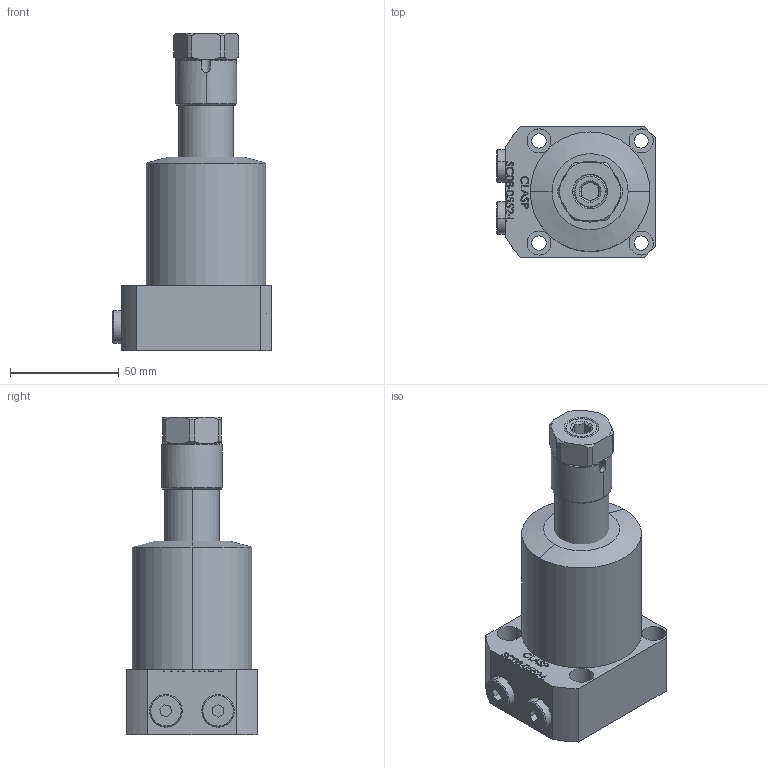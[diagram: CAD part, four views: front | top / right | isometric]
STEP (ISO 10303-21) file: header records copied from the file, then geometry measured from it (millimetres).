
FILE_DESCRIPTION (( 'STEP AP203' ), '1' );
FILE_NAME ('SC08-0552-L.STEP', '2022-07-08T17:18:47', ( '' ), ( '' ), 'SwSTEP 2.0', 'SolidWorks 2017', '' );
FILE_SCHEMA (( 'CONFIG_CONTROL_DESIGN' ));
Length unit declared in the file: millimetre
Products named in the file (6): SC-08-0552-L-05 plug; SC-08-0552-L-04 sleeve; SC-08-0552-L-03-nut; SC08-0552-L; SC-08-0552-L BODY; SC-08-0552-L-Piston
Assembly tree (6 placements, depth 2):
  SC08-0552-L
    SC-08-0552-L BODY
    SC-08-0552-L-Piston
    SC-08-0552-L-05 plug  x2
    SC-08-0552-L-04 sleeve
    SC-08-0552-L-03-nut
Bounding box: 73 x 60 x 146 mm (x, y, z)
Volume: 294881.3 mm3; surface area: 44515.6 mm2
Topology: 6 solids, 6 shells, 374 faces, 936 edges, 613 vertices
Faces by surface type: plane 156, bspline 111, cylinder 64, cone 41, sphere 2
Entity records: 17891 total; most frequent: CARTESIAN_POINT 9298, ORIENTED_EDGE 1804, DIRECTION 1313, EDGE_CURVE 902, VERTEX_POINT 592, LINE 467, VECTOR 467, AXIS2_PLACEMENT_3D 423
